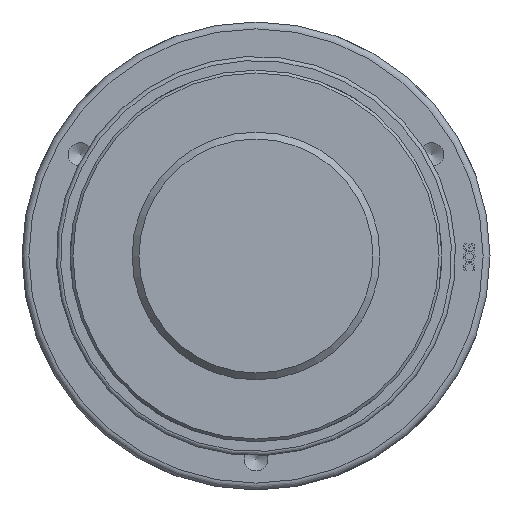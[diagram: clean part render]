
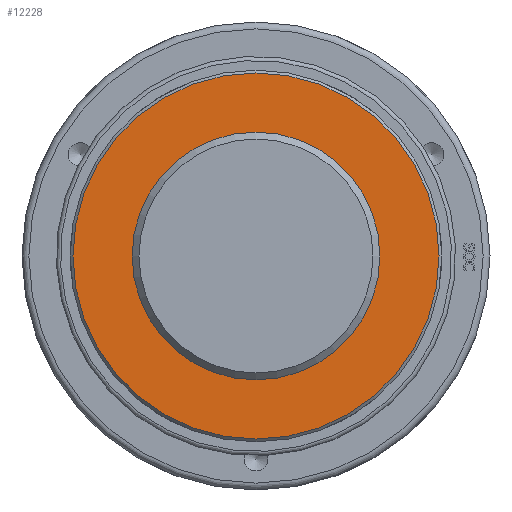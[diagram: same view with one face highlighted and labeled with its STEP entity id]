
A CAD part, front view. The second image highlights one B-rep face of the part: STEP entity #12228.
In plain terms, the highlighted planar face has unit normal (0, -1, 0) as drawn and (0, 1, 0) by its records, which use the part's own axes.
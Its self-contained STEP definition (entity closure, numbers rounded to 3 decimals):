
#90=CIRCLE('',#12875,133.);
#92=CIRCLE('',#12879,85.67);
#169=FACE_BOUND('',#2255,.T.);
#1520=FACE_OUTER_BOUND('',#2254,.T.);
#2254=EDGE_LOOP('',(#9688));
#2255=EDGE_LOOP('',(#9689));
#5492=VERTEX_POINT('',#18644);
#5506=VERTEX_POINT('',#18884);
#7003=EDGE_CURVE('',#5492,#5492,#90,.T.);
#7017=EDGE_CURVE('',#5506,#5506,#92,.T.);
#9688=ORIENTED_EDGE('',*,*,#7003,.F.);
#9689=ORIENTED_EDGE('',*,*,#7017,.T.);
#11751=PLANE('',#12878);
#12228=ADVANCED_FACE('',(#1520,#169),#11751,.T.);
#12875=AXIS2_PLACEMENT_3D('',#18645,#14072,#14073);
#12878=AXIS2_PLACEMENT_3D('',#18883,#14078,#14079);
#12879=AXIS2_PLACEMENT_3D('',#18885,#14080,#14081);
#14072=DIRECTION('center_axis',(0.,-1.,0.));
#14073=DIRECTION('ref_axis',(1.,0.,0.));
#14078=DIRECTION('center_axis',(0.,1.,0.));
#14079=DIRECTION('ref_axis',(0.,0.,1.));
#14080=DIRECTION('center_axis',(0.,-1.,0.));
#14081=DIRECTION('ref_axis',(1.,0.,0.));
#18644=CARTESIAN_POINT('',(-133.,90.,0.));
#18645=CARTESIAN_POINT('Origin',(0.,90.,0.));
#18883=CARTESIAN_POINT('Origin',(0.,90.,0.));
#18884=CARTESIAN_POINT('',(-85.67,90.,0.));
#18885=CARTESIAN_POINT('Origin',(0.,90.,0.));
